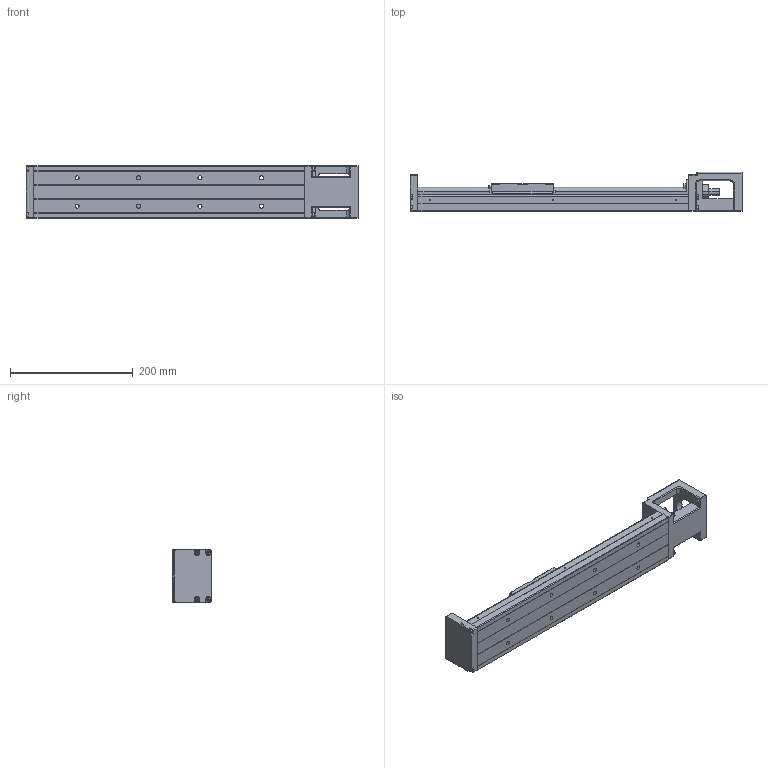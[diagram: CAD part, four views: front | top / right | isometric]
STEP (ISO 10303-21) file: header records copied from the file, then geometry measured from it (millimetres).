
FILE_DESCRIPTION (( 'STEP AP203' ), '1' );
FILE_NAME ('HKK86D20C-540A1-F0.stp', '2021-11-25T03:49:30', ( '' ), ( '' ), 'SwSTEP 2.0', 'SolidWorks 2018', '' );
FILE_SCHEMA (( 'CONFIG_CONTROL_DESIGN' ));
Length unit declared in the file: millimetre
Products named in the file (1): HKK86D20C-540A1-F0
Bounding box: 540 x 64 x 86 mm (x, y, z)
Volume: 1108973.6 mm3; surface area: 226655.2 mm2
Topology: 2 solids, 2 shells, 593 faces, 1575 edges, 990 vertices
Faces by surface type: plane 291, cylinder 215, cone 70, sphere 9, torus 8
Entity records: 18463 total; most frequent: CARTESIAN_POINT 3615, DIRECTION 3127, ORIENTED_EDGE 3034, EDGE_CURVE 1517, AXIS2_PLACEMENT_3D 1073, VERTEX_POINT 986, LINE 981, VECTOR 981
